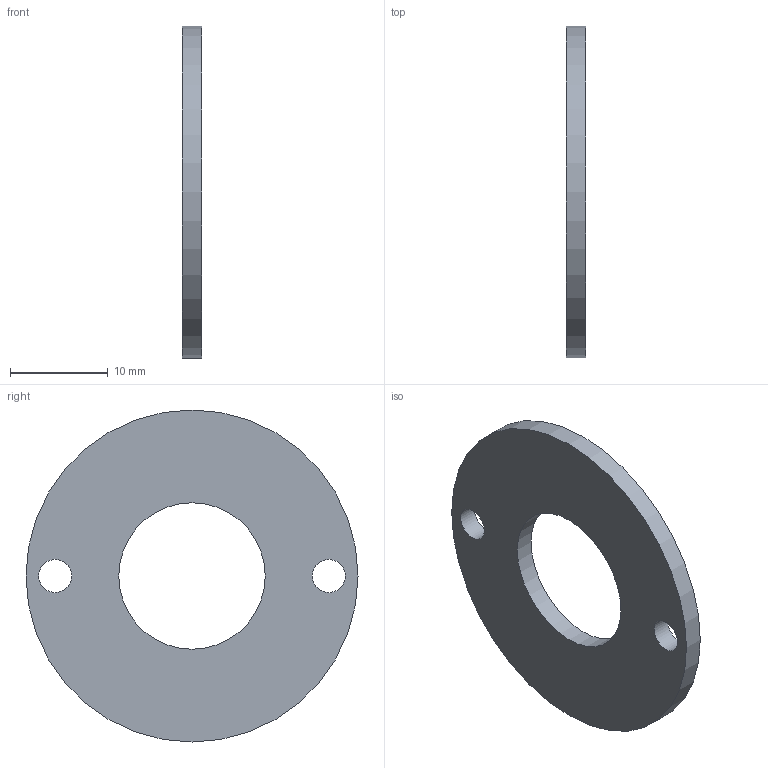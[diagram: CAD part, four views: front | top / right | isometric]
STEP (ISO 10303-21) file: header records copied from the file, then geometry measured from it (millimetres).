
FILE_DESCRIPTION(('Open CASCADE Model'),'2;1');
FILE_NAME('Open CASCADE Shape Model','2026-11-04T08:45:16',('Author'),( 'Open CASCADE'),'Open CASCADE STEP processor 7.8','Open CASCADE 7.8' ,'Unknown');
FILE_SCHEMA(('AUTOMOTIVE_DESIGN { 1 0 10303 214 1 1 1 1 }'));
Length unit declared in the file: millimetre
Products named in the file (1): Open CASCADE STEP translator 7.8 10
Bounding box: 2 x 34 x 34 mm (x, y, z)
Volume: 1426.1 mm3; surface area: 1776.7 mm2
Topology: 1 solids, 1 shells, 6 faces, 12 edges, 8 vertices
Faces by surface type: cylinder 4, plane 2
Full cylindrical faces by diameter (mm): 3.4 x2, 15 x1, 34 x1
Entity records: 342 total; most frequent: DIRECTION 58, CARTESIAN_POINT 51, ORIENTED_EDGE 24, PCURVE 24, DEFINITIONAL_REPRESENTATION 24, LINE 20, VECTOR 20, CIRCLE 16
